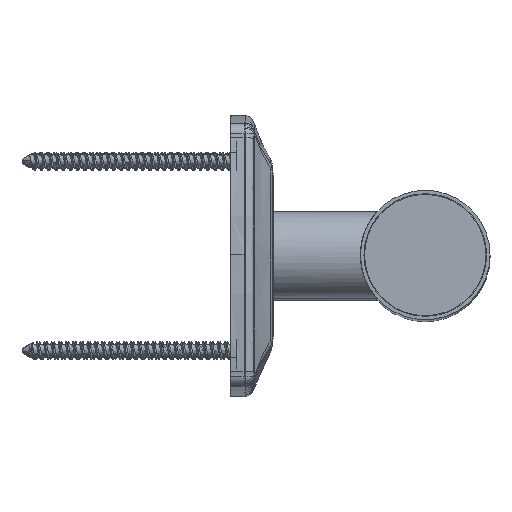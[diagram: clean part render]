
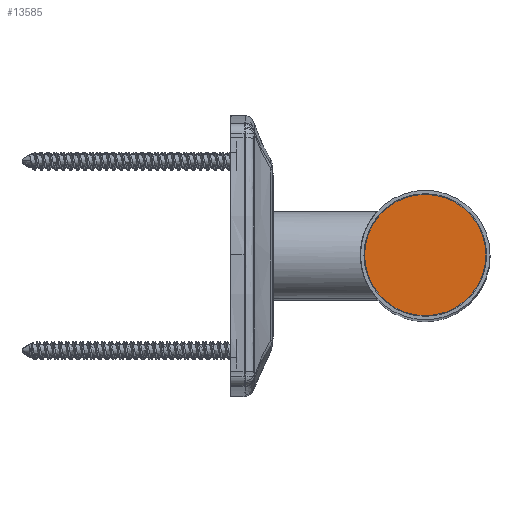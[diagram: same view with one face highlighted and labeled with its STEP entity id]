
A CAD part, top view. The second image highlights one B-rep face of the part: STEP entity #13585.
In plain terms, the highlighted planar face has unit normal (0, 0, 1).
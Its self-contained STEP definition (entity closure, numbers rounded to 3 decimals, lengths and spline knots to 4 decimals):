
#7030 = CIRCLE ( 'NONE', #56539, 0.7008 ) ;
#7744 = ORIENTED_EDGE ( 'NONE', *, *, #54917, .F. ) ;
#12787 = CARTESIAN_POINT ( 'NONE',  ( -0.9373, 0., 19.526 ) ) ;
#13585 = ADVANCED_FACE ( 'NONE', ( #26145 ), #61071, .F. ) ;
#18896 = CARTESIAN_POINT ( 'NONE',  ( 0.4643, 0., 19.526 ) ) ;
#19336 = DIRECTION ( 'NONE',  ( 1., 0., 0. ) ) ;
#26145 = FACE_OUTER_BOUND ( 'NONE', #53925, .T. ) ;
#30035 = ORIENTED_EDGE ( 'NONE', *, *, #31079, .F. ) ;
#31079 = EDGE_CURVE ( 'NONE', #57540, #62565, #45567, .T. ) ;
#33239 = AXIS2_PLACEMENT_3D ( 'NONE', #48818, #49209, #19336 ) ;
#40514 = DIRECTION ( 'NONE',  ( 0., 0., -1. ) ) ;
#43987 = DIRECTION ( 'NONE',  ( 1., 0., 0. ) ) ;
#45567 = CIRCLE ( 'NONE', #33239, 0.7008 ) ;
#47095 = DIRECTION ( 'NONE',  ( 1., 0., 0. ) ) ;
#48818 = CARTESIAN_POINT ( 'NONE',  ( -0.2365, 0., 19.526 ) ) ;
#49209 = DIRECTION ( 'NONE',  ( 0., 0., -1. ) ) ;
#53925 = EDGE_LOOP ( 'NONE', ( #7744, #30035 ) ) ;
#54859 = CARTESIAN_POINT ( 'NONE',  ( -0.9457, -0.7092, 19.526 ) ) ;
#54917 = EDGE_CURVE ( 'NONE', #62565, #57540, #7030, .T. ) ;
#56381 = DIRECTION ( 'NONE',  ( 0., 0., -1. ) ) ;
#56539 = AXIS2_PLACEMENT_3D ( 'NONE', #71149, #40514, #47095 ) ;
#57540 = VERTEX_POINT ( 'NONE', #12787 ) ;
#61071 = PLANE ( 'NONE',  #73641 ) ;
#62565 = VERTEX_POINT ( 'NONE', #18896 ) ;
#71149 = CARTESIAN_POINT ( 'NONE',  ( -0.2365, 0., 19.526 ) ) ;
#73641 = AXIS2_PLACEMENT_3D ( 'NONE', #54859, #56381, #43987 ) ;
